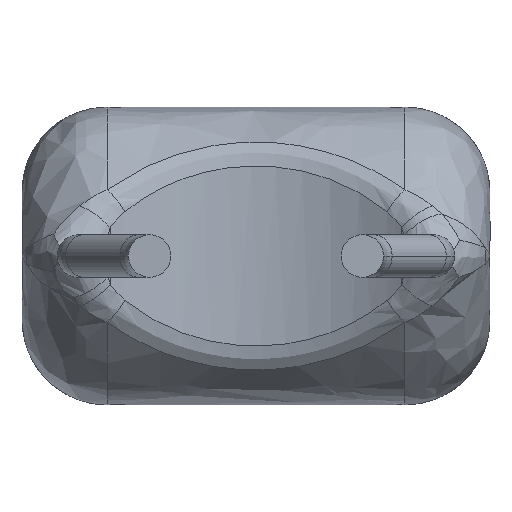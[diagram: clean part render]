
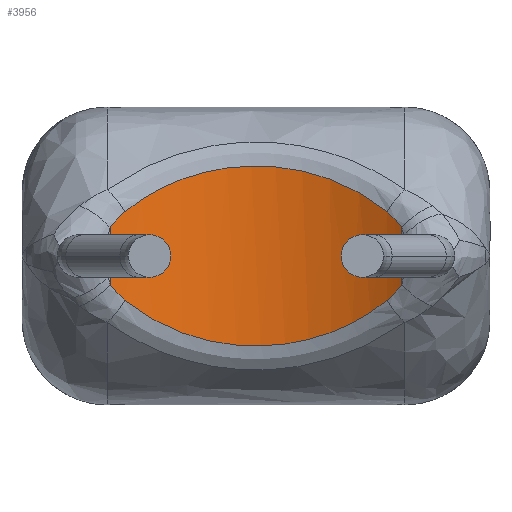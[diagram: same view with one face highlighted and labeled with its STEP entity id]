
A CAD part, front view. The second image highlights one B-rep face of the part: STEP entity #3956.
In plain terms, the highlighted cylindrical face has radius 3 mm (diameter 6 mm), a partial arc.
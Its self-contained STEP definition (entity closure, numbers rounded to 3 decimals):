
#85 = DIRECTION ( 'NONE',  ( 1., 0., 0. ) ) ;
#113 = ORIENTED_EDGE ( 'NONE', *, *, #1492, .T. ) ;
#119 = CARTESIAN_POINT ( 'NONE',  ( 1.665, 2.156, -0.4 ) ) ;
#148 = CARTESIAN_POINT ( 'NONE',  ( -1.544, 2.232, -0.517 ) ) ;
#163 = DIRECTION ( 'NONE',  ( 0., 0., 1. ) ) ;
#195 = CARTESIAN_POINT ( 'NONE',  ( 1.544, 2.232, -0.517 ) ) ;
#207 = CARTESIAN_POINT ( 'NONE',  ( -1.332, 2.351, 0.675 ) ) ;
#285 = CARTESIAN_POINT ( 'NONE',  ( 1.097, 2.455, -0.809 ) ) ;
#328 = DIRECTION ( 'NONE',  ( 0., 0., 1. ) ) ;
#489 = CARTESIAN_POINT ( 'NONE',  ( 1.441, 2.294, 0.599 ) ) ;
#530 = EDGE_CURVE ( 'NONE', #2444, #2793, #1353, .T. ) ;
#609 = VECTOR ( 'NONE', #163, 1000. ) ;
#672 = CARTESIAN_POINT ( 'NONE',  ( -0.573, 2.608, -0.997 ) ) ;
#675 = CARTESIAN_POINT ( 'NONE',  ( 1.714, 2.122, 0.33 ) ) ;
#688 = CARTESIAN_POINT ( 'NONE',  ( -1.714, 2.122, 0.33 ) ) ;
#704 = B_SPLINE_CURVE_WITH_KNOTS ( 'NONE', 3,
 ( #2157, #2808, #957, #2200, #977, #1214, #672, #3729, #1903, #3123, #1501, #1279, #3408, #1260, #285, #1861, #1237, #3388 ),
 .UNSPECIFIED., .F., .F.,
 ( 4, 2, 2, 2, 2, 2, 2, 2, 4 ),
 ( 0., 0., 0.001, 0.001, 0.002, 0.002, 0.003, 0.003, 0.003 ),
 .UNSPECIFIED. ) ;
#731 = LINE ( 'NONE', #3460, #609 ) ;
#768 = CYLINDRICAL_SURFACE ( 'NONE', #3697, 3. ) ;
#794 = CARTESIAN_POINT ( 'NONE',  ( -0.708, 2.578, 0.961 ) ) ;
#857 = CARTESIAN_POINT ( 'NONE',  ( -1.714, 2.122, 0.33 ) ) ;
#865 = ORIENTED_EDGE ( 'NONE', *, *, #530, .T. ) ;
#937 = LINE ( 'NONE', #2136, #1921 ) ;
#957 = CARTESIAN_POINT ( 'NONE',  ( -1.332, 2.351, -0.675 ) ) ;
#974 = B_SPLINE_CURVE_WITH_KNOTS ( 'NONE', 3,
 ( #3495, #1081, #1067, #2301 ),
 .UNSPECIFIED., .F., .F.,
 ( 4, 4 ),
 ( 0., 0. ),
 .UNSPECIFIED. ) ;
#977 = CARTESIAN_POINT ( 'NONE',  ( -0.97, 2.502, -0.867 ) ) ;
#1067 = CARTESIAN_POINT ( 'NONE',  ( 1.61, 2.192, 0.465 ) ) ;
#1081 = CARTESIAN_POINT ( 'NONE',  ( 1.665, 2.156, 0.4 ) ) ;
#1112 = CARTESIAN_POINT ( 'NONE',  ( -1.714, 2.122, -0.33 ) ) ;
#1175 = CARTESIAN_POINT ( 'NONE',  ( 0.289, 2.649, 1.045 ) ) ;
#1214 = CARTESIAN_POINT ( 'NONE',  ( -0.709, 2.578, -0.961 ) ) ;
#1237 = CARTESIAN_POINT ( 'NONE',  ( 1.441, 2.294, -0.599 ) ) ;
#1249 = EDGE_CURVE ( 'NONE', #3075, #3687, #3535, .T. ) ;
#1260 = CARTESIAN_POINT ( 'NONE',  ( 0.97, 2.502, -0.867 ) ) ;
#1279 = CARTESIAN_POINT ( 'NONE',  ( 0.572, 2.608, -0.997 ) ) ;
#1312 = CARTESIAN_POINT ( 'NONE',  ( 1.61, 2.192, -0.465 ) ) ;
#1333 = EDGE_CURVE ( 'NONE', #1449, #2444, #2575, .T. ) ;
#1353 = B_SPLINE_CURVE_WITH_KNOTS ( 'NONE', 3,
 ( #1845, #1525, #3611, #857 ),
 .UNSPECIFIED., .F., .F.,
 ( 4, 4 ),
 ( 0., 0. ),
 .UNSPECIFIED. ) ;
#1361 = CARTESIAN_POINT ( 'NONE',  ( 1.544, 2.232, 0.517 ) ) ;
#1389 = DIRECTION ( 'NONE',  ( 0., 0., 1. ) ) ;
#1415 = CARTESIAN_POINT ( 'NONE',  ( -0.97, 2.502, 0.867 ) ) ;
#1449 = VERTEX_POINT ( 'NONE', #1582 ) ;
#1457 = CARTESIAN_POINT ( 'NONE',  ( 0.709, 2.578, 0.961 ) ) ;
#1492 = EDGE_CURVE ( 'NONE', #1631, #3455, #937, .T. ) ;
#1501 = CARTESIAN_POINT ( 'NONE',  ( 0.288, 2.649, -1.045 ) ) ;
#1520 = EDGE_CURVE ( 'NONE', #3687, #2819, #704, .T. ) ;
#1525 = CARTESIAN_POINT ( 'NONE',  ( -1.61, 2.192, 0.465 ) ) ;
#1582 = CARTESIAN_POINT ( 'NONE',  ( 1.544, 2.232, 0.517 ) ) ;
#1609 = ORIENTED_EDGE ( 'NONE', *, *, #1520, .T. ) ;
#1631 = VERTEX_POINT ( 'NONE', #3482 ) ;
#1845 = CARTESIAN_POINT ( 'NONE',  ( -1.544, 2.232, 0.517 ) ) ;
#1861 = CARTESIAN_POINT ( 'NONE',  ( 1.332, 2.351, -0.675 ) ) ;
#1885 = B_SPLINE_CURVE_WITH_KNOTS ( 'NONE', 3,
 ( #195, #1312, #119, #1933 ),
 .UNSPECIFIED., .F., .F.,
 ( 4, 4 ),
 ( 0., 0. ),
 .UNSPECIFIED. ) ;
#1890 = EDGE_CURVE ( 'NONE', #2819, #1631, #1885, .T. ) ;
#1903 = CARTESIAN_POINT ( 'NONE',  ( -0.144, 2.66, -1.056 ) ) ;
#1921 = VECTOR ( 'NONE', #328, 1000. ) ;
#1933 = CARTESIAN_POINT ( 'NONE',  ( 1.714, 2.122, -0.33 ) ) ;
#1965 = ORIENTED_EDGE ( 'NONE', *, *, #1333, .T. ) ;
#1974 = FACE_OUTER_BOUND ( 'NONE', #2205, .T. ) ;
#2055 = CARTESIAN_POINT ( 'NONE',  ( 0.97, 2.502, 0.867 ) ) ;
#2107 = ORIENTED_EDGE ( 'NONE', *, *, #1890, .T. ) ;
#2136 = CARTESIAN_POINT ( 'NONE',  ( 1.714, 2.122, -5. ) ) ;
#2157 = CARTESIAN_POINT ( 'NONE',  ( -1.544, 2.232, -0.517 ) ) ;
#2200 = CARTESIAN_POINT ( 'NONE',  ( -1.097, 2.455, -0.809 ) ) ;
#2205 = EDGE_LOOP ( 'NONE', ( #1965, #865, #2507, #3368, #1609, #2107, #113, #2674 ) ) ;
#2257 = CARTESIAN_POINT ( 'NONE',  ( -1.665, 2.156, -0.4 ) ) ;
#2301 = CARTESIAN_POINT ( 'NONE',  ( 1.544, 2.232, 0.517 ) ) ;
#2329 = CARTESIAN_POINT ( 'NONE',  ( -1.544, 2.232, -0.517 ) ) ;
#2365 = EDGE_CURVE ( 'NONE', #3455, #1449, #974, .T. ) ;
#2372 = CARTESIAN_POINT ( 'NONE',  ( 1.332, 2.351, 0.675 ) ) ;
#2393 = CARTESIAN_POINT ( 'NONE',  ( -1.544, 2.232, 0.517 ) ) ;
#2444 = VERTEX_POINT ( 'NONE', #3536 ) ;
#2471 = CARTESIAN_POINT ( 'NONE',  ( 1.544, 2.232, -0.517 ) ) ;
#2507 = ORIENTED_EDGE ( 'NONE', *, *, #3948, .F. ) ;
#2540 = CARTESIAN_POINT ( 'NONE',  ( 0., -0.34, -5. ) ) ;
#2566 = CARTESIAN_POINT ( 'NONE',  ( -1.61, 2.192, -0.465 ) ) ;
#2575 = B_SPLINE_CURVE_WITH_KNOTS ( 'NONE', 3,
 ( #1361, #489, #2372, #3929, #2055, #1457, #3262, #1175, #3869, #3548, #3851, #3027, #794, #1415, #3624, #207, #3567, #2393 ),
 .UNSPECIFIED., .F., .F.,
 ( 4, 2, 2, 2, 2, 2, 2, 2, 4 ),
 ( 0., 0., 0.001, 0.001, 0.002, 0.002, 0.003, 0.003, 0.003 ),
 .UNSPECIFIED. ) ;
#2674 = ORIENTED_EDGE ( 'NONE', *, *, #2365, .T. ) ;
#2793 = VERTEX_POINT ( 'NONE', #688 ) ;
#2808 = CARTESIAN_POINT ( 'NONE',  ( -1.441, 2.294, -0.599 ) ) ;
#2819 = VERTEX_POINT ( 'NONE', #2471 ) ;
#2869 = CARTESIAN_POINT ( 'NONE',  ( -1.714, 2.122, -0.33 ) ) ;
#3027 = CARTESIAN_POINT ( 'NONE',  ( -0.572, 2.608, 0.997 ) ) ;
#3075 = VERTEX_POINT ( 'NONE', #1112 ) ;
#3123 = CARTESIAN_POINT ( 'NONE',  ( 0.144, 2.66, -1.056 ) ) ;
#3262 = CARTESIAN_POINT ( 'NONE',  ( 0.573, 2.608, 0.997 ) ) ;
#3368 = ORIENTED_EDGE ( 'NONE', *, *, #1249, .T. ) ;
#3388 = CARTESIAN_POINT ( 'NONE',  ( 1.544, 2.232, -0.517 ) ) ;
#3408 = CARTESIAN_POINT ( 'NONE',  ( 0.708, 2.578, -0.961 ) ) ;
#3455 = VERTEX_POINT ( 'NONE', #675 ) ;
#3460 = CARTESIAN_POINT ( 'NONE',  ( -1.714, 2.122, -5. ) ) ;
#3482 = CARTESIAN_POINT ( 'NONE',  ( 1.714, 2.122, -0.33 ) ) ;
#3495 = CARTESIAN_POINT ( 'NONE',  ( 1.714, 2.122, 0.33 ) ) ;
#3535 = B_SPLINE_CURVE_WITH_KNOTS ( 'NONE', 3,
 ( #2869, #2257, #2566, #148 ),
 .UNSPECIFIED., .F., .F.,
 ( 4, 4 ),
 ( 0., 0. ),
 .UNSPECIFIED. ) ;
#3536 = CARTESIAN_POINT ( 'NONE',  ( -1.544, 2.232, 0.517 ) ) ;
#3548 = CARTESIAN_POINT ( 'NONE',  ( -0.144, 2.66, 1.056 ) ) ;
#3567 = CARTESIAN_POINT ( 'NONE',  ( -1.441, 2.294, 0.599 ) ) ;
#3611 = CARTESIAN_POINT ( 'NONE',  ( -1.665, 2.156, 0.4 ) ) ;
#3624 = CARTESIAN_POINT ( 'NONE',  ( -1.097, 2.455, 0.809 ) ) ;
#3687 = VERTEX_POINT ( 'NONE', #2329 ) ;
#3697 = AXIS2_PLACEMENT_3D ( 'NONE', #2540, #1389, #85 ) ;
#3729 = CARTESIAN_POINT ( 'NONE',  ( -0.289, 2.649, -1.045 ) ) ;
#3851 = CARTESIAN_POINT ( 'NONE',  ( -0.288, 2.649, 1.045 ) ) ;
#3869 = CARTESIAN_POINT ( 'NONE',  ( 0.144, 2.66, 1.056 ) ) ;
#3929 = CARTESIAN_POINT ( 'NONE',  ( 1.097, 2.455, 0.809 ) ) ;
#3948 = EDGE_CURVE ( 'NONE', #3075, #2793, #731, .T. ) ;
#3956 = ADVANCED_FACE ( 'NONE', ( #1974 ), #768, .F. ) ;
